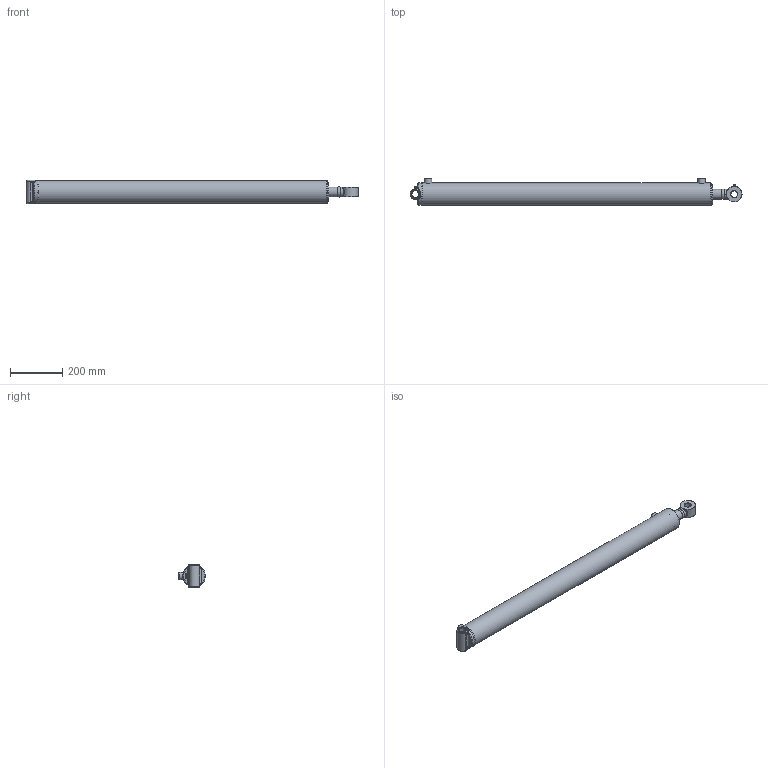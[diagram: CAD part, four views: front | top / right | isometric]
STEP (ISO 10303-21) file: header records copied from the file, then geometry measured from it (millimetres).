
FILE_DESCRIPTION(/* description */ ('Ø3.00 X 40.00 DA'),/* implementation_level */ '2;1');
FILE_NAME(/* name */ 'T:\Aces\Jobs\e4e392b7f5044b439b3bc287a5b04db8\result.stp',/* time_stamp */ '2024-02-19T15:25:18+00:00',/* author */ ('AJC'),/* organization */ ('PRINCE MANUFACTURING'),/* preprocessor_version */ 'ST-DEVELOPER v18.1',/* originating_system */ 'Autodesk Inventor 2022',/* authorisation */ '');
FILE_SCHEMA (('AUTOMOTIVE_DESIGN { 1 0 10303 214 3 1 1 }'));
Length unit declared in the file: inch
Products named in the file (21): PC3040015A00-480XTXS; 0615-XTSF000-43507; 0515-T-43507; 161500198; 200015603; 06Weld1_C360; 0715-P-100; 220000210; 0815-G-150; 230025104; 230025004; 240000022; 240061334; 240000334; 0208A-HAW2-45813XS; 0108A-HAW2-45813; 210400772; 02Weld_C360; 240020059; 250014150; 270010020
Assembly tree (22 placements, depth 3):
  PC3040015A00-480XTXS
    0615-XTSF000-43507
      0515-T-43507
      161500198
      200015603  x2
      06Weld1_C360
    0715-P-100
    220000210
    0815-G-150
    230025104
    230025004
    240000022
    240061334
    240000334
    0208A-HAW2-45813XS
      0108A-HAW2-45813
      210400772
      02Weld_C360
    240020059
    250014150
    270010020  x2
Bounding box: 1269.24 x 104.04 x 88.9 mm (x, y, z)
Volume: 3131479.4 mm3; surface area: 857937.3 mm2
Topology: 26 solids, 26 shells, 564 faces, 1375 edges, 870 vertices
Faces by surface type: bspline 162, plane 135, torus 95, cylinder 84, cone 84, sphere 4
Full cylindrical faces by diameter (mm): 2.143 x4, 3.175 x1, 5.359 x2, 6.35 x2, 9.525 x2, 12.649 x1, 12.7 x1, 12.725 x1, 17.323 x2, 23.444 x1, 25.349 x1, 25.476 x1, 25.781 x1, 26.162 x1, 27.965 x1, 28.575 x2, 38.1 x1, 38.176 x2, 39.294 x2, 40.132 x1, 40.488 x1, 45.263 x1, 46.457 x1, 47.65 x1, 49.276 x2, 50.8 x2, 61.976 x1, 63.5 x2, 66.777 x2, 67.513 x2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
Entity records: 35075 total; most frequent: CARTESIAN_POINT 22422, ORIENTED_EDGE 2512, DIRECTION 2178, EDGE_CURVE 1256, AXIS2_PLACEMENT_3D 915, VERTEX_POINT 809, EDGE_LOOP 595, FACE_OUTER_BOUND 520
